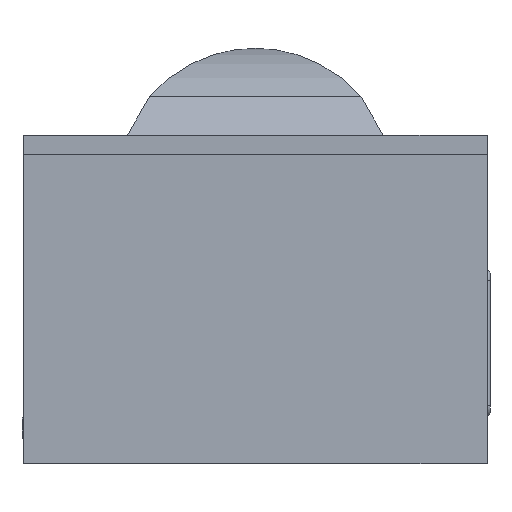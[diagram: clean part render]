
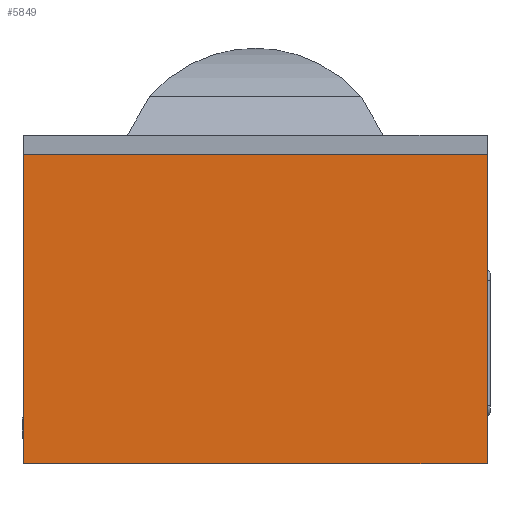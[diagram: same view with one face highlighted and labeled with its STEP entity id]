
A CAD part, left-side view. The second image highlights one B-rep face of the part: STEP entity #5849.
In plain terms, the highlighted planar face has unit normal (-1, 0, 0).
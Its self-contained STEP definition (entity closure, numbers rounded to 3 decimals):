
#516=ORIENTED_EDGE('',*,*,#1756,.F.);
#517=ORIENTED_EDGE('',*,*,#1758,.T.);
#518=ORIENTED_EDGE('',*,*,#1759,.T.);
#519=ORIENTED_EDGE('',*,*,#1760,.T.);
#520=ORIENTED_EDGE('',*,*,#1761,.F.);
#521=ORIENTED_EDGE('',*,*,#1762,.F.);
#522=ORIENTED_EDGE('',*,*,#1665,.F.);
#523=ORIENTED_EDGE('',*,*,#1763,.T.);
#1665=EDGE_CURVE('',#2286,#2287,#2690,.T.);
#1756=EDGE_CURVE('',#2377,#2378,#2694,.T.);
#1758=EDGE_CURVE('',#2377,#2379,#2696,.T.);
#1759=EDGE_CURVE('',#2379,#2380,#2697,.T.);
#1760=EDGE_CURVE('',#2380,#2381,#2698,.T.);
#1761=EDGE_CURVE('',#2382,#2381,#2699,.T.);
#1762=EDGE_CURVE('',#2287,#2382,#2700,.T.);
#1763=EDGE_CURVE('',#2286,#2378,#2701,.T.);
#2286=VERTEX_POINT('',#7374);
#2287=VERTEX_POINT('',#7376);
#2377=VERTEX_POINT('',#8109);
#2378=VERTEX_POINT('',#8111);
#2379=VERTEX_POINT('',#8115);
#2380=VERTEX_POINT('',#8117);
#2381=VERTEX_POINT('',#8119);
#2382=VERTEX_POINT('',#8121);
#2690=LINE('',#7375,#3059);
#2694=LINE('',#8110,#3063);
#2696=LINE('',#8114,#3065);
#2697=LINE('',#8116,#3066);
#2698=LINE('',#8118,#3067);
#2699=LINE('',#8120,#3068);
#2700=LINE('',#8122,#3069);
#2701=LINE('',#8123,#3070);
#3059=VECTOR('',#6422,1000.);
#3063=VECTOR('',#6428,1000.);
#3065=VECTOR('',#6432,1000.);
#3066=VECTOR('',#6433,1000.);
#3067=VECTOR('',#6434,1000.);
#3068=VECTOR('',#6435,1000.);
#3069=VECTOR('',#6436,1000.);
#3070=VECTOR('',#6437,1000.);
#3407=EDGE_LOOP('',(#516,#517,#518,#519,#520,#521,#522,#523));
#3680=FACE_BOUND('',#3407,.T.);
#3935=PLANE('',#6104);
#5849=ADVANCED_FACE('',(#3680),#3935,.T.);
#6104=AXIS2_PLACEMENT_3D('',#8113,#6430,#6431);
#6422=DIRECTION('',(0.,0.,-1.));
#6428=DIRECTION('',(0.,0.,-1.));
#6430=DIRECTION('',(-1.,0.,0.));
#6431=DIRECTION('',(0.,0.,1.));
#6432=DIRECTION('',(0.,1.,0.));
#6433=DIRECTION('',(0.,0.,-1.));
#6434=DIRECTION('',(0.,-1.,0.));
#6435=DIRECTION('',(0.,0.,-1.));
#6436=DIRECTION('',(0.,1.,0.));
#6437=DIRECTION('',(0.,1.,0.));
#7374=CARTESIAN_POINT('',(0.,-0.01,200.));
#7375=CARTESIAN_POINT('',(0.,-0.01,200.));
#7376=CARTESIAN_POINT('',(0.,-0.01,50.));
#8109=CARTESIAN_POINT('',(0.,0.,319.999));
#8110=CARTESIAN_POINT('',(0.,0.,340.));
#8111=CARTESIAN_POINT('',(0.,0.,200.));
#8113=CARTESIAN_POINT('',(0.,480.,340.));
#8114=CARTESIAN_POINT('',(0.,0.,319.999));
#8115=CARTESIAN_POINT('',(0.,480.,319.999));
#8116=CARTESIAN_POINT('',(0.,480.,340.));
#8117=CARTESIAN_POINT('',(0.,480.,0.));
#8118=CARTESIAN_POINT('',(0.,480.,0.));
#8119=CARTESIAN_POINT('',(0.,0.,0.));
#8120=CARTESIAN_POINT('',(0.,0.,340.));
#8121=CARTESIAN_POINT('',(0.,0.,50.));
#8122=CARTESIAN_POINT('',(0.,-0.01,50.));
#8123=CARTESIAN_POINT('',(0.,-0.01,200.));
